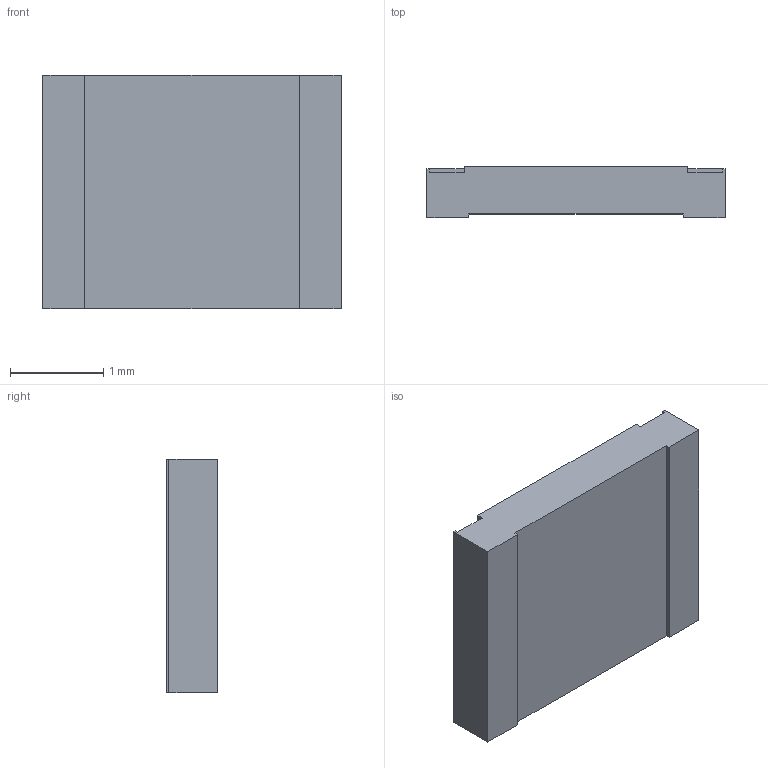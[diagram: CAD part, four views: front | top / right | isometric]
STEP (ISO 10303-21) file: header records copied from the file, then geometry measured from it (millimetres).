
FILE_DESCRIPTION(/* description */ (''),/* implementation_level */ '2;1');
FILE_NAME(/* name */ 'H:\Per\3 Modelle für Chris\D10 CRCW1210-TR e3.stp',/* time_stamp */ '2021-03-16T16:05:30+01:00',/* author */ ('rpetersen'),/* organization */ (''),/* preprocessor_version */ 'ST-DEVELOPER v17',/* originating_system */ 'Autodesk Inventor 2018',/* authorisation */ '');
FILE_SCHEMA (('AUTOMOTIVE_DESIGN { 1 0 10303 214 3 1 1 }'));
Length unit declared in the file: millimetre
Products named in the file (1): 4193
Bounding box: 3.2 x 0.55 x 2.5 mm (x, y, z)
Volume: 4.1 mm3; surface area: 22.3 mm2
Topology: 1 solids, 1 shells, 26 faces, 72 edges, 48 vertices
Faces by surface type: plane 26
Entity records: 855 total; most frequent: CARTESIAN_POINT 147, ORIENTED_EDGE 144, DIRECTION 126, LINE 72, VECTOR 72, EDGE_CURVE 72, VERTEX_POINT 48, AXIS2_PLACEMENT_3D 27
